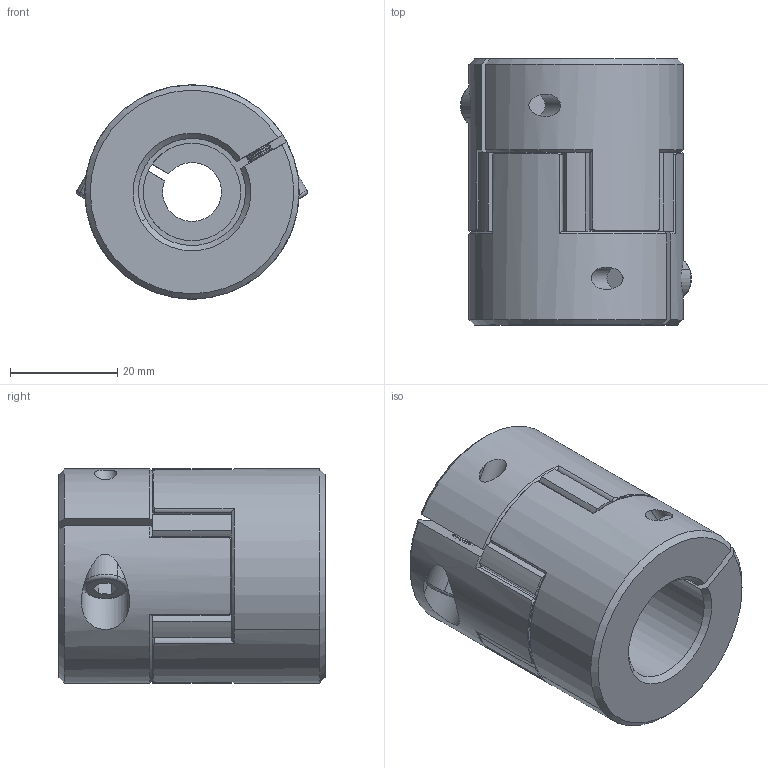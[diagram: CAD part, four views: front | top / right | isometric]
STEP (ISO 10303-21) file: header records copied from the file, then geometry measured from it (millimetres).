
FILE_DESCRIPTION (( 'STEP AP203' ), '1' );
FILE_NAME ('LF-B-D40L50-11-20.STEP', '2021-10-25T02:42:48', ( '' ), ( '' ), 'SwSTEP 2.0', 'SolidWorks 2018', '' );
FILE_SCHEMA (( 'CONFIG_CONTROL_DESIGN' ));
Length unit declared in the file: millimetre
Products named in the file (1): LF-B-D40L50-11-20
Bounding box: 43.11 x 49.7 x 40 mm (x, y, z)
Volume: 49806 mm3; surface area: 14665.8 mm2
Topology: 1 solids, 7 shells, 470 faces, 1113 edges, 660 vertices
Faces by surface type: cone 170, cylinder 169, plane 127, torus 4
Entity records: 13932 total; most frequent: CARTESIAN_POINT 2888, DIRECTION 2501, ORIENTED_EDGE 2218, EDGE_CURVE 1109, AXIS2_PLACEMENT_3D 1037, VERTEX_POINT 660, CIRCLE 566, EDGE_LOOP 487
